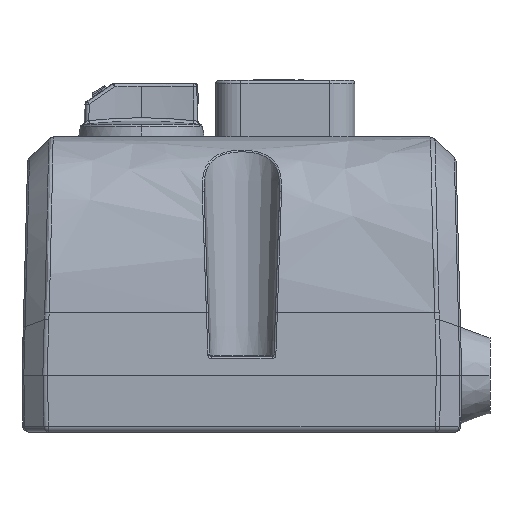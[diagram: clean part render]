
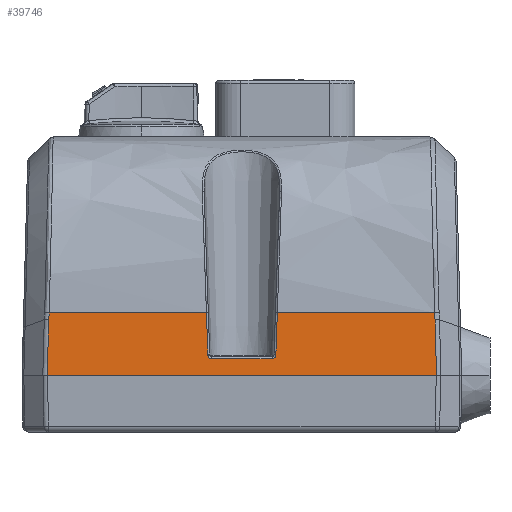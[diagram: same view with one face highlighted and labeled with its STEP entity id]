
A CAD part, left-side view. The second image highlights one B-rep face of the part: STEP entity #39746.
In plain terms, the highlighted planar face has unit normal (-1, 0, 0.026).
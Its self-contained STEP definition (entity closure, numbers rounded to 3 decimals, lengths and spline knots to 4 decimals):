
#300 = EDGE_CURVE ( 'NONE', #36402, #14972, #21159, .T. ) ;
#450 = CARTESIAN_POINT ( 'NONE',  ( -3.4632, -0.922, -0.3121 ) ) ;
#483 = LINE ( 'NONE', #14848, #36525 ) ;
#612 = LINE ( 'NONE', #22485, #19660 ) ;
#1055 = DIRECTION ( 'NONE',  ( 0., -1., 0. ) ) ;
#1108 = ORIENTED_EDGE ( 'NONE', *, *, #9511, .T. ) ;
#1144 = CARTESIAN_POINT ( 'NONE',  ( -3.4697, 0.5003, -0.5601 ) ) ;
#2164 = DIRECTION ( 'NONE',  ( 0.026, 0.035, 0.999 ) ) ;
#2248 = CARTESIAN_POINT ( 'NONE',  ( -3.4624, 0.51, -0.2824 ) ) ;
#2581 = CARTESIAN_POINT ( 'NONE',  ( -3.4635, -0.9229, -0.3269 ) ) ;
#2582 = ORIENTED_EDGE ( 'NONE', *, *, #39260, .T. ) ;
#3463 = EDGE_CURVE ( 'NONE', #42018, #25831, #11784, .T. ) ;
#3465 = CARTESIAN_POINT ( 'NONE',  ( -3.4699, 0.4772, -0.5695 ) ) ;
#4062 = DIRECTION ( 'NONE',  ( -0.026, 0.026, -0.999 ) ) ;
#4262 = DIRECTION ( 'NONE',  ( 0., 1., 0. ) ) ;
#4506 = CARTESIAN_POINT ( 'NONE',  ( -3.4727, -1.0902, -0.6761 ) ) ;
#4754 = ORIENTED_EDGE ( 'NONE', *, *, #3463, .T. ) ;
#4847 = EDGE_CURVE ( 'NONE', #14972, #14732, #7430, .T. ) ;
#4942 = DIRECTION ( 'NONE',  ( 0., 1., 0. ) ) ;
#6082 = DIRECTION ( 'NONE',  ( 0.026, 0.026, 0.999 ) ) ;
#6103 = VECTOR ( 'NONE', #4262, 39.3701 ) ;
#6405 = AXIS2_PLACEMENT_3D ( 'NONE', #27792, #8056, #20857 ) ;
#6555 = ORIENTED_EDGE ( 'NONE', *, *, #4847, .T. ) ;
#7069 = ORIENTED_EDGE ( 'NONE', *, *, #17166, .T. ) ;
#7228 = VERTEX_POINT ( 'NONE', #13007 ) ;
#7371 = CARTESIAN_POINT ( 'NONE',  ( -3.4693, 0.5008, -0.5467 ) ) ;
#7430 = B_SPLINE_CURVE_WITH_KNOTS ( 'NONE', 3,
 ( #8245, #28110, #31403, #8383 ),
 .UNSPECIFIED., .F., .F.,
 ( 4, 4 ),
 ( 0., 0.0011 ),
 .UNSPECIFIED. ) ;
#8056 = DIRECTION ( 'NONE',  ( -1., 0., 0.026 ) ) ;
#8242 = LINE ( 'NONE', #35253, #24726 ) ;
#8245 = CARTESIAN_POINT ( 'NONE',  ( -3.4624, 1.4956, -0.2824 ) ) ;
#8383 = CARTESIAN_POINT ( 'NONE',  ( -3.4635, 1.4984, -0.3257 ) ) ;
#9287 = LINE ( 'NONE', #4506, #33407 ) ;
#9511 = EDGE_CURVE ( 'NONE', #37707, #42018, #26196, .T. ) ;
#10097 = CARTESIAN_POINT ( 'NONE',  ( -3.4624, -0.9201, -0.2824 ) ) ;
#10155 = ORIENTED_EDGE ( 'NONE', *, *, #16828, .T. ) ;
#10268 = LINE ( 'NONE', #24651, #34435 ) ;
#11663 = CARTESIAN_POINT ( 'NONE',  ( -3.4624, 0.0656, -0.2824 ) ) ;
#11738 = CARTESIAN_POINT ( 'NONE',  ( -3.4693, 0.0748, -0.5467 ) ) ;
#11784 = LINE ( 'NONE', #20357, #6103 ) ;
#12290 = EDGE_CURVE ( 'NONE', #16359, #7228, #13517, .T. ) ;
#12496 = VERTEX_POINT ( 'NONE', #24492 ) ;
#12751 = CARTESIAN_POINT ( 'NONE',  ( -3.4699, 0.085, -0.5695 ) ) ;
#12965 = CARTESIAN_POINT ( 'NONE',  ( -3.4635, 1.4984, -0.3257 ) ) ;
#13007 = CARTESIAN_POINT ( 'NONE',  ( -3.4699, 0.0984, -0.5695 ) ) ;
#13517 =( BOUNDED_CURVE ( )  B_SPLINE_CURVE ( 3, ( #35038, #38357, #12751, #42399 ),
 .UNSPECIFIED., .F., .F. ) 
 B_SPLINE_CURVE_WITH_KNOTS ( ( 4, 4 ),
 ( 1.6057, 3.1416 ),
 .UNSPECIFIED. ) 
 CURVE ( )  GEOMETRIC_REPRESENTATION_ITEM ( )  RATIONAL_B_SPLINE_CURVE ( ( 1., 0.813, 0.813, 1. ) ) 
 REPRESENTATION_ITEM ( '' )  );
#14732 = VERTEX_POINT ( 'NONE', #12965 ) ;
#14848 = CARTESIAN_POINT ( 'NONE',  ( -3.4716, 0.0779, -0.6353 ) ) ;
#14972 = VERTEX_POINT ( 'NONE', #28026 ) ;
#16334 = EDGE_LOOP ( 'NONE', ( #4754, #2582, #30702, #32360, #24328, #16921, #26450, #6555, #10155, #36931, #7069, #1108 ) ) ;
#16359 = VERTEX_POINT ( 'NONE', #11738 ) ;
#16590 =( BOUNDED_CURVE ( )  B_SPLINE_CURVE ( 3, ( #40733, #20827, #1144, #24171 ),
 .UNSPECIFIED., .F., .F. ) 
 B_SPLINE_CURVE_WITH_KNOTS ( ( 4, 4 ),
 ( 0., 1.5359 ),
 .UNSPECIFIED. ) 
 CURVE ( )  GEOMETRIC_REPRESENTATION_ITEM ( )  RATIONAL_B_SPLINE_CURVE ( ( 1., 0.813, 0.813, 1. ) ) 
 REPRESENTATION_ITEM ( '' )  );
#16828 = EDGE_CURVE ( 'NONE', #14732, #12496, #25318, .T. ) ;
#16899 = CARTESIAN_POINT ( 'NONE',  ( -3.4727, 1.5076, -0.6765 ) ) ;
#16921 = ORIENTED_EDGE ( 'NONE', *, *, #18163, .T. ) ;
#17166 = EDGE_CURVE ( 'NONE', #29158, #37707, #612, .T. ) ;
#18163 = EDGE_CURVE ( 'NONE', #35449, #36402, #8242, .T. ) ;
#19660 = VECTOR ( 'NONE', #6082, 39.3701 ) ;
#20357 = CARTESIAN_POINT ( 'NONE',  ( -3.4624, -1.6807, -0.2824 ) ) ;
#20827 = CARTESIAN_POINT ( 'NONE',  ( -3.4699, 0.4906, -0.5695 ) ) ;
#20857 = DIRECTION ( 'NONE',  ( 0.026, 0., 1. ) ) ;
#21159 = LINE ( 'NONE', #27884, #37658 ) ;
#22485 = CARTESIAN_POINT ( 'NONE',  ( -3.4634, -0.9228, -0.3217 ) ) ;
#23198 = CARTESIAN_POINT ( 'NONE',  ( -3.4628, -0.9211, -0.2972 ) ) ;
#24171 = CARTESIAN_POINT ( 'NONE',  ( -3.4693, 0.5008, -0.5467 ) ) ;
#24328 = ORIENTED_EDGE ( 'NONE', *, *, #42512, .T. ) ;
#24461 = PLANE ( 'NONE',  #6405 ) ;
#24492 = CARTESIAN_POINT ( 'NONE',  ( -3.4727, 1.5076, -0.6761 ) ) ;
#24651 = CARTESIAN_POINT ( 'NONE',  ( -3.4699, -1.0902, -0.5695 ) ) ;
#24726 = VECTOR ( 'NONE', #2164, 39.3701 ) ;
#25144 = EDGE_CURVE ( 'NONE', #12496, #29158, #9287, .T. ) ;
#25318 = LINE ( 'NONE', #16899, #34575 ) ;
#25831 = VERTEX_POINT ( 'NONE', #11663 ) ;
#26196 = B_SPLINE_CURVE_WITH_KNOTS ( 'NONE', 3,
 ( #33515, #450, #23198, #10097 ),
 .UNSPECIFIED., .F., .F.,
 ( 4, 4 ),
 ( 0., 0.0011 ),
 .UNSPECIFIED. ) ;
#26450 = ORIENTED_EDGE ( 'NONE', *, *, #300, .T. ) ;
#27792 = CARTESIAN_POINT ( 'NONE',  ( -3.4727, -1.0902, -0.6761 ) ) ;
#27884 = CARTESIAN_POINT ( 'NONE',  ( -3.4624, -1.6807, -0.2824 ) ) ;
#28026 = CARTESIAN_POINT ( 'NONE',  ( -3.4624, 1.4956, -0.2824 ) ) ;
#28110 = CARTESIAN_POINT ( 'NONE',  ( -3.4628, 1.4965, -0.2968 ) ) ;
#29158 = VERTEX_POINT ( 'NONE', #42492 ) ;
#30702 = ORIENTED_EDGE ( 'NONE', *, *, #12290, .T. ) ;
#31403 = CARTESIAN_POINT ( 'NONE',  ( -3.4631, 1.4975, -0.3113 ) ) ;
#32360 = ORIENTED_EDGE ( 'NONE', *, *, #39331, .T. ) ;
#33062 = FACE_OUTER_BOUND ( 'NONE', #16334, .T. ) ;
#33407 = VECTOR ( 'NONE', #1055, 39.3701 ) ;
#33515 = CARTESIAN_POINT ( 'NONE',  ( -3.4635, -0.9229, -0.3269 ) ) ;
#34279 = DIRECTION ( 'NONE',  ( -0.026, 0.035, -0.999 ) ) ;
#34435 = VECTOR ( 'NONE', #4942, 39.3701 ) ;
#34575 = VECTOR ( 'NONE', #4062, 39.3701 ) ;
#34901 = DIRECTION ( 'NONE',  ( 0., 1., 0. ) ) ;
#35038 = CARTESIAN_POINT ( 'NONE',  ( -3.4693, 0.0748, -0.5467 ) ) ;
#35253 = CARTESIAN_POINT ( 'NONE',  ( -3.4741, 0.4943, -0.7314 ) ) ;
#35449 = VERTEX_POINT ( 'NONE', #7371 ) ;
#36402 = VERTEX_POINT ( 'NONE', #2248 ) ;
#36525 = VECTOR ( 'NONE', #34279, 39.3701 ) ;
#36931 = ORIENTED_EDGE ( 'NONE', *, *, #25144, .T. ) ;
#37658 = VECTOR ( 'NONE', #34901, 39.3701 ) ;
#37707 = VERTEX_POINT ( 'NONE', #2581 ) ;
#38357 = CARTESIAN_POINT ( 'NONE',  ( -3.4697, 0.0753, -0.5601 ) ) ;
#39077 = CARTESIAN_POINT ( 'NONE',  ( -3.4624, -0.9201, -0.2824 ) ) ;
#39260 = EDGE_CURVE ( 'NONE', #25831, #16359, #483, .T. ) ;
#39331 = EDGE_CURVE ( 'NONE', #7228, #42026, #10268, .T. ) ;
#39746 = ADVANCED_FACE ( 'NONE', ( #33062 ), #24461, .T. ) ;
#40733 = CARTESIAN_POINT ( 'NONE',  ( -3.4699, 0.4772, -0.5695 ) ) ;
#42018 = VERTEX_POINT ( 'NONE', #39077 ) ;
#42026 = VERTEX_POINT ( 'NONE', #3465 ) ;
#42399 = CARTESIAN_POINT ( 'NONE',  ( -3.4699, 0.0984, -0.5695 ) ) ;
#42492 = CARTESIAN_POINT ( 'NONE',  ( -3.4727, -0.9321, -0.6761 ) ) ;
#42512 = EDGE_CURVE ( 'NONE', #42026, #35449, #16590, .T. ) ;
